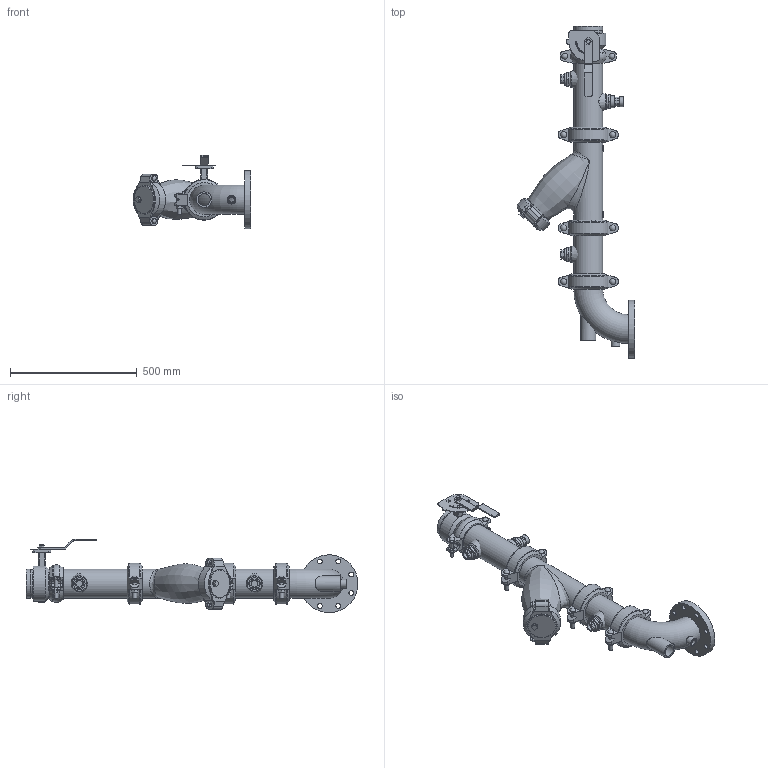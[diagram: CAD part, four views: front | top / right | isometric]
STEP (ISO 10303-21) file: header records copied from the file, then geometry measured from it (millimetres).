
FILE_DESCRIPTION(/* description */ ('VIC SVI PUMP DROP HORZ S/382 (OGSxFLG) (S/924-0.75)','CAx-IF Rec.Pracs.---Representation and Presentation of Product Manufacturing Information (PMI)---4.0---2014-10-13'),/* implementation_level */ '2;1');
FILE_NAME(/* name */ 'C:\Users\Vjadhav\AppData\Roaming\Autodesk\ApplicationPlugins\Victaulic.Temp\A115\Series 382 (OGSxFLG)_924 (0.75)_04.0x04.0 (100x100).stp',/* time_stamp */ '2022-03-17T12:18:40+06:00',/* author */ ('kkamble'),/* organization */ ('Victaulic'),/* preprocessor_version */ 'ST-DEVELOPER v17.2',/* originating_system */ 'Autodesk Inventor 2019',/* authorisation */ '');
FILE_SCHEMA (('AP242_MANAGED_MODEL_BASED_3D_ENGINEERING_MIM_LF { 1 0 10303 442 1 1 4 }'));
Length unit declared in the file: inch
Products named in the file (13): 382_924 (0.75)-04.0x04.0; PIPE-04.0; 107N-04.0; 732-04.0; 732-04.0_1; 07-04.0; 732-04.0_2; PIPE-04.3; 761-04.0; 924-04.0x0.75; 177N-04.0; 923-04.0x0.75; 100F-04.0
Assembly tree (15 placements, depth 3):
  382_924 (0.75)-04.0x04.0
    PIPE-04.0
    107N-04.0
    732-04.0
      732-04.0_1
      07-04.0
      732-04.0_2
    177N-04.0  x3
    PIPE-04.3
    761-04.0
    924-04.0x0.75
    923-04.0x0.75  x2
    100F-04.0
Bounding box: 464.88 x 1311.28 x 289.31 mm (x, y, z)
Volume: 8356820.6 mm3; surface area: 1830478.4 mm2
Topology: 14 solids, 17 shells, 864 faces, 2240 edges, 1494 vertices
Faces by surface type: plane 483, cylinder 291, torus 31, cone 27, bspline 22, sphere 10
Full cylindrical faces by diameter (mm): 4.826 x10, 8.636 x4, 12.7 x8, 14.986 x2, 15.875 x6, 19.05 x8, 20.93 x1, 22.225 x4, 22.86 x1, 23.495 x6, 25.4 x3, 26.67 x5, 34.29 x1, 38.608 x1, 45.974 x6, 48.26 x1, 55.118 x1, 55.626 x3, 60.96 x1, 95.25 x1, 98.831 x1, 99.06 x1, 101.6 x4, 102.26 x5, 107.95 x1, 110.084 x11, 114.3 x26, 139.7 x1, 228.6 x1
Entity records: 24318 total; most frequent: CARTESIAN_POINT 7305, DIRECTION 3467, ORIENTED_EDGE 3220, EDGE_CURVE 1610, AXIS2_PLACEMENT_3D 1317, VERTEX_POINT 1080, LINE 833, VECTOR 833
